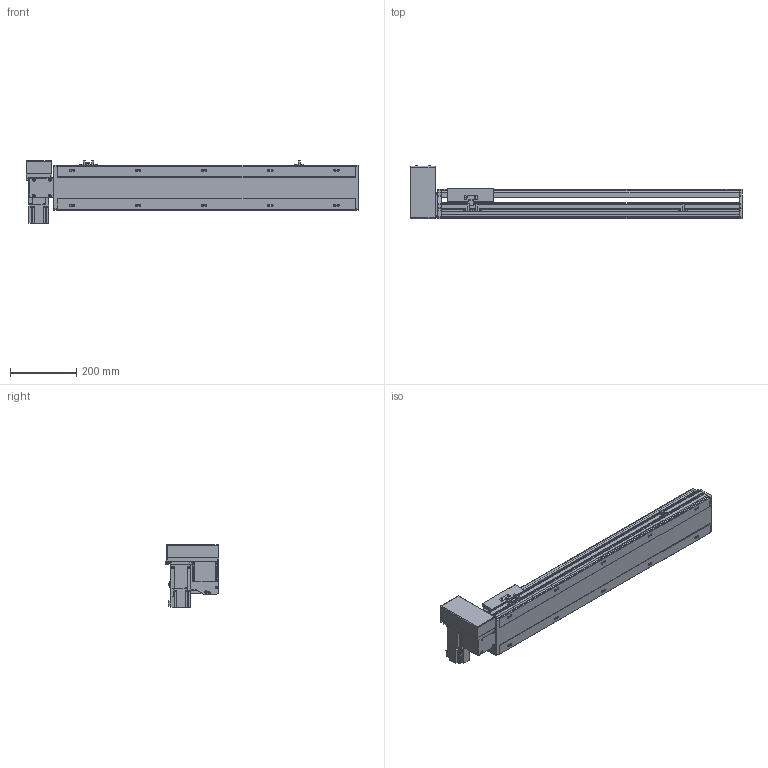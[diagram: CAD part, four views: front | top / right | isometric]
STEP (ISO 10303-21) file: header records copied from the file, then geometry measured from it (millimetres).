
FILE_DESCRIPTION( ( 'STEP AP214' ), '1' );
FILE_NAME( 'x:/temp/worker_6/temp/exporttempdir_5396_208_qhSPU/format_0/PBS140S-P40-S650-RU-T40-C1-N(0).stp', '2022-06-09T00:54:20', ( 'License CC BY-ND 4.0' ), ( 'CADENAS' ), ' ', 'PARTsolutions', ' ' );
FILE_SCHEMA( ( 'AUTOMOTIVE_DESIGN { 1 0 10303 214 1 1 1 1 }' ) );
Length unit declared in the file: millimetre
Products named in the file (7): PBS140S-P40-S650-RU-T40-C1-N(0); _PBS140S-S650()_body; _PBS140ST-RU_motors; _T40-p1; _PBS140S_sliser; _PBS140S_plant; _PBS140S_sensor
Assembly tree (8 placements, depth 2):
  PBS140S-P40-S650-RU-T40-C1-N(0)
    _PBS140S-S650()_body
    _PBS140ST-RU_motors
    _T40-p1
    _PBS140S_sliser
    _PBS140S_plant
    _PBS140S_sensor  x3
Bounding box: 1004 x 162.5 x 189.7 mm (x, y, z)
Volume: 5447152.8 mm3; surface area: 957678.8 mm2
Topology: 8 solids, 8 shells, 1051 faces, 2791 edges, 1827 vertices
Faces by surface type: plane 684, cylinder 321, cone 36, sphere 8, torus 2
Full cylindrical faces by diameter (mm): 3.242 x4, 4 x2, 4.134 x4, 4.4 x8, 4.5 x2, 4.8 x4, 4.917 x18, 5.5 x7, 6 x2, 7 x12, 7.5 x8, 8 x12, 8.5 x4, 10.5 x10, 14 x1, 30 x2, 50 x2
Entity records: 38410 total; most frequent: CARTESIAN_POINT 5902, DIRECTION 5138, ORIENTED_EDGE 4882, EDGE_CURVE 2441, AXIS2_PLACEMENT_3D 1769, VERTEX_POINT 1681, LINE 1600, VECTOR 1600
